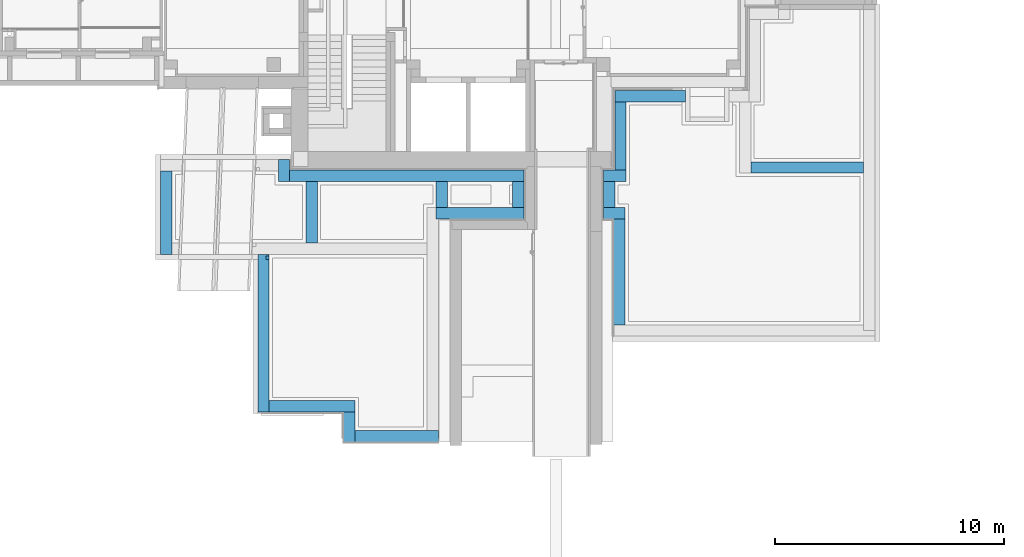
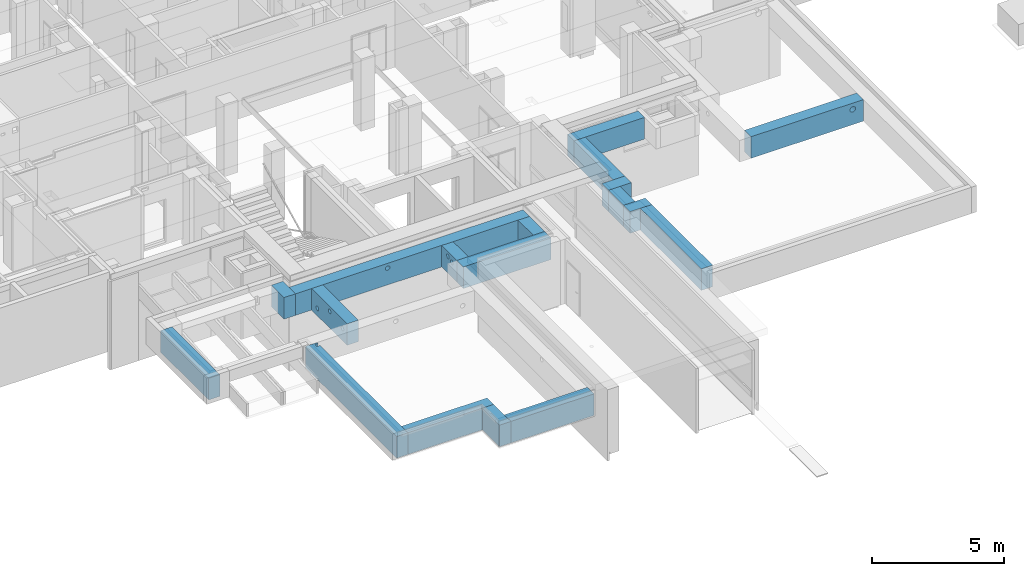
# One storey, part 1 of 84: 18 footings, 8 openings.
"""IFC4 building model written with IfcOpenShell, lengths in metres."""

from ifc_helpers import new_model, entity, si_unit, converted_unit, derived_unit, frame, frame_2d, origin, origin_with_axes, place, context, subcontext, project, spatial, polyline, rectangle, outline, extrude, material, element, save


model = new_model("IFC4")

# Units and contexts
model_context = context("Model", 3, precision=1e-05, world=origin())
body_context = subcontext(model_context, "Body", "Model", "MODEL_VIEW")
ifc_project = project(units=[si_unit("LENGTHUNIT", "METRE"), si_unit("AREAUNIT", "SQUARE_METRE"), si_unit("VOLUMEUNIT", "CUBIC_METRE"), si_unit("MASSUNIT", "GRAM", prefix="KILO"), converted_unit("PLANEANGLEUNIT", "DEGREE", entity("IfcPlaneAngleMeasure", 0.0174532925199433), si_unit("PLANEANGLEUNIT", "RADIAN"), dimensions=[0, 0, 0, 0, 0, 0, 0]), derived_unit("THERMALTRANSMITTANCEUNIT", [(si_unit("POWERUNIT", "WATT"), 1), (si_unit("THERMODYNAMICTEMPERATUREUNIT", "KELVIN"), -1), (si_unit("LENGTHUNIT", "METRE"), -2)]), derived_unit("VOLUMETRICFLOWRATEUNIT", [(si_unit("LENGTHUNIT", "METRE"), 3), (converted_unit("TIMEUNIT", "hour", entity("IfcTimeMeasure", 3600.0), si_unit("TIMEUNIT", "SECOND"), dimensions=[0, 0, 1, 0, 0, 0, 0]), -1), (si_unit("LENGTHUNIT", "METRE"), -1)])], contexts=[model_context])

# Site, building, storey
site_placement = place(None, origin())
site = spatial("IfcSite", under=ifc_project, at=site_placement, Name="3. ASŘ", CompositionType="ELEMENT")
building_placement = place(site_placement, origin())
building = spatial("IfcBuilding", under=site, at=building_placement, Name="Pavilon C", CompositionType="ELEMENT")
storey_placement = place(building_placement, frame((0.0, 0.0, -3.3)))
storey = spatial("IfcBuildingStorey", under=building, at=storey_placement, Name="Půdorys 1.PP", CompositionType="ELEMENT", Elevation=-3.3)

# Footing
ifc_material_1 = material(Name="ZELEZOBETONOVÁ KCE")
footing_1_placement = place(storey_placement, frame((24.6, -4.65, 1.8), z_axis=(0.0, 0.0, 1.0), x_axis=(0.0, -1.0, 0.0)))
element("IfcFooting", 1, at=footing_1_placement, inside=storey, material=ifc_material_1, PredefinedType="STRIP_FOOTING", context=body_context, shape_type="SweptSolid", body=[
    extrude(rectangle(XDim=0.5, YDim=1.0, at=frame_2d((0.25, 0.5), x_axis=(1.0, 0.0))), frame((0.0, 0.0, 0.0), z_axis=(1.0, 0.0, 0.0), x_axis=(0.0, 1.0, 0.0)), (0.0, 0.0, 1.0), 3.65000000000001),
])

# Footing, opening
ifc_material_2 = material(Name="ZELEZOBETONOVÁ KCE")
footing_2_placement = place(storey_placement, frame((28.85, -8.30000000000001, 1.8), z_axis=(0.0, 0.0, 1.0), x_axis=(0.0, -1.0, 0.0)))
footing_2 = element("IfcFooting", 2, at=footing_2_placement, inside=storey, material=ifc_material_2, PredefinedType="STRIP_FOOTING", context=body_context, shape_type="SweptSolid", body=[
    extrude(rectangle(XDim=0.5, YDim=1.0, at=frame_2d((0.25, 0.5), x_axis=(1.0, 0.0))), frame((0.0, 0.0, 0.0), z_axis=(1.0, 0.0, 0.0), x_axis=(0.0, 1.0, 0.0)), (0.0, 0.0, 1.0), 6.895),
])
opening_1_placement = place(footing_2_placement, frame((0.225097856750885, 0.5, 0.7), z_axis=(0.0, -1.0, 0.0), x_axis=(0.0, 0.0, 1.0)))
element("IfcOpeningElement", 3, at=opening_1_placement, cuts=footing_2, Name="ZTI", ObjectType="Opening", context=body_context, shape_type="SweptSolid", body=[
    extrude(outline(polyline([(0.0, 0.15), (0.3, 0.15), (0.3, 0.0), (0.0, 0.0), (0.0, 0.15)])), origin_with_axes(), (0.0, 0.0, 1.0), 0.15),
])

# Footings
ifc_material_3 = material(Name="ZELEZOBETONOVÁ KCE")
footing_3_placement = place(storey_placement, frame((29.35, -15.195, 1.8)))
element("IfcFooting", 4, at=footing_3_placement, inside=storey, material=ifc_material_3, PredefinedType="STRIP_FOOTING", context=body_context, shape_type="SweptSolid", body=[
    extrude(rectangle(XDim=0.5, YDim=1.0, at=frame_2d((0.25, 0.5), x_axis=(1.0, 0.0))), frame((0.0, 0.0, 0.0), z_axis=(1.0, 0.0, 0.0), x_axis=(0.0, 1.0, 0.0)), (0.0, 0.0, 1.0), 3.755),
])
ifc_material_4 = material(Name="ZELEZOBETONOVÁ KCE")
footing_4_placement = place(storey_placement, frame((32.605, -15.195, 1.8), z_axis=(0.0, 0.0, 1.0), x_axis=(0.0, -1.0, 0.0)))
element("IfcFooting", 5, at=footing_4_placement, inside=storey, material=ifc_material_4, PredefinedType="STRIP_FOOTING", context=body_context, shape_type="SweptSolid", body=[
    extrude(rectangle(XDim=0.5, YDim=1.0, at=frame_2d((0.25, 0.5), x_axis=(1.0, 0.0))), frame((0.0, 0.0, 0.0), z_axis=(1.0, 0.0, 0.0), x_axis=(0.0, 1.0, 0.0)), (0.0, 0.0, 1.0), 1.3),
])
ifc_material_5 = material(Name="ZELEZOBETONOVÁ KCE")
footing_5_placement = place(storey_placement, frame((33.105, -16.495, 1.8)))
element("IfcFooting", 6, at=footing_5_placement, inside=storey, material=ifc_material_5, PredefinedType="STRIP_FOOTING", context=body_context, shape_type="SweptSolid", body=[
    extrude(rectangle(XDim=0.5, YDim=1.0, at=frame_2d((0.25, 0.5), x_axis=(1.0, 0.0))), frame((0.0, 0.0, 0.0), z_axis=(1.0, 0.0, 0.0), x_axis=(0.0, 1.0, 0.0)), (0.0, 0.0, 1.0), 3.645),
])
ifc_material_6 = material(Name="ZELEZOBETONOVÁ KCE")
footing_6_placement = place(storey_placement, frame((36.65, -6.75, 1.8)))
element("IfcFooting", 7, at=footing_6_placement, inside=storey, material=ifc_material_6, PredefinedType="STRIP_FOOTING", context=body_context, shape_type="SweptSolid", body=[
    extrude(rectangle(XDim=0.5, YDim=1.0, at=frame_2d((0.25, 0.5), x_axis=(1.0, 0.0))), frame((0.0, 0.0, 0.0), z_axis=(1.0, 0.0, 0.0), x_axis=(0.0, 1.0, 0.0)), (0.0, 0.0, 1.0), 3.845),
])

# Footing, opening
ifc_material_7 = material(Name="ZELEZOBETONOVÁ KCE")
footing_7_placement = place(storey_placement, frame((40.495, -4.605, 1.8), z_axis=(0.0, 0.0, 1.0), x_axis=(-1.0, 1.77462380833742e-16, 0.0)))
footing_7 = element("IfcFooting", 8, at=footing_7_placement, inside=storey, material=ifc_material_7, PredefinedType="STRIP_FOOTING", context=body_context, shape_type="SweptSolid", body=[
    extrude(rectangle(XDim=0.499999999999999, YDim=1.0, at=frame_2d((0.25, 0.5), x_axis=(1.0, 0.0))), frame((0.0, 0.0, 0.0), z_axis=(1.0, 0.0, 0.0), x_axis=(0.0, 1.0, 0.0)), (0.0, 0.0, 1.0), 10.25),
])
opening_2_placement = place(footing_7_placement, frame((6.31008141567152, 0.5, 0.68), z_axis=(0.0, -1.0, 0.0), x_axis=(0.0, 0.0, 1.0)))
element("IfcOpeningElement", 9, at=opening_2_placement, cuts=footing_7, Name="RAD", ObjectType="Opening", context=body_context, shape_type="SweptSolid", body=[
    extrude(outline(polyline([(0.1, 0.0), (0.0895471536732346, 0.000547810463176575), (0.0792088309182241, 0.00218523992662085), (0.0690983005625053, 0.00489434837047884), (0.05932633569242, 0.00864545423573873), (0.05, 0.0133974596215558), (0.0412214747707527, 0.0190983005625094), (0.0330869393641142, 0.025685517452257), (0.0256855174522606, 0.0330869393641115), (0.0190983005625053, 0.0412214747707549), (0.0133974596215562, 0.05), (0.00864545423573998, 0.0593263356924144), (0.00489434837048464, 0.0690983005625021), (0.00218523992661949, 0.0792088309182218), (0.000547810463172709, 0.0895471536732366), (0.0, 0.1), (0.000547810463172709, 0.110452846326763), (0.00218523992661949, 0.120791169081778), (0.00489434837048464, 0.130901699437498), (0.00864545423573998, 0.140673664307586), (0.0133974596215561, 0.15), (0.0190983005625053, 0.158778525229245), (0.0256855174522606, 0.166913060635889), (0.0330869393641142, 0.174314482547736), (0.0412214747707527, 0.180901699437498), (0.05, 0.186602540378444), (0.05932633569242, 0.191354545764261), (0.0690983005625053, 0.195105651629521), (0.0792088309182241, 0.197814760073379), (0.0895471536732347, 0.199452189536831), (0.1, 0.2), (0.110452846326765, 0.199452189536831), (0.120791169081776, 0.197814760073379), (0.130901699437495, 0.195105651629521), (0.14067366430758, 0.191354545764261), (0.15, 0.186602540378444), (0.158778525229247, 0.180901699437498), (0.166913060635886, 0.174314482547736), (0.174314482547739, 0.166913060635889), (0.180901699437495, 0.158778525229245), (0.186602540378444, 0.15), (0.19135454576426, 0.140673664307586), (0.195105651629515, 0.130901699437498), (0.197814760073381, 0.120791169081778), (0.199452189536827, 0.110452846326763), (0.2, 0.1), (0.199452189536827, 0.0895471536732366), (0.197814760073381, 0.0792088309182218), (0.195105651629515, 0.0690983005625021), (0.19135454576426, 0.0593263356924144), (0.186602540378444, 0.05), (0.180901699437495, 0.0412214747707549), (0.174314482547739, 0.0330869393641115), (0.166913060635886, 0.025685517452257), (0.158778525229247, 0.0190983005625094), (0.15, 0.0133974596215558), (0.14067366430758, 0.00864545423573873), (0.130901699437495, 0.00489434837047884), (0.120791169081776, 0.00218523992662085), (0.110452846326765, 0.000547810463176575), (0.1, 0.0)])), origin_with_axes(), (0.0, 0.0, 1.0), 0.5),
])

# Footing, openings
ifc_material_8 = material(Name="ZELEZOBETONOVÁ KCE")
footing_8_placement = place(storey_placement, frame((30.95, -5.105, 1.8), z_axis=(0.0, 0.0, 1.0), x_axis=(0.0, -1.0, 0.0)))
footing_8 = element("IfcFooting", 10, at=footing_8_placement, inside=storey, material=ifc_material_8, PredefinedType="STRIP_FOOTING", context=body_context, shape_type="SweptSolid", body=[
    extrude(rectangle(XDim=0.5, YDim=1.0, at=frame_2d((0.25, 0.5), x_axis=(1.0, 0.0))), frame((0.0, 0.0, 0.0), z_axis=(1.0, 0.0, 0.0), x_axis=(0.0, 1.0, 0.0)), (0.0, 0.0, 1.0), 2.69500000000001),
])
opening_3_placement = place(footing_8_placement, frame((1.4725, 0.5, 0.680000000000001), z_axis=(0.0, -1.0, 0.0), x_axis=(0.0, 0.0, 1.0)))
element("IfcOpeningElement", 11, at=opening_3_placement, cuts=footing_8, Name="RAD", ObjectType="Opening", context=body_context, shape_type="SweptSolid", body=[
    extrude(outline(polyline([(0.0999999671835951, 0.0), (0.0895471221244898, 0.000547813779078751), (0.0792088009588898, 0.00218524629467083), (0.0690982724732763, 0.00489435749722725), (0.0593263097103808, 0.00864546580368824), (0.0499999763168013, 0.0133974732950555), (0.0412214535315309, 0.0190983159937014), (0.0330869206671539, 0.0256855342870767), (0.0256855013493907, 0.0330869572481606), (0.0190982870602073, 0.0412214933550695), (0.0133974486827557, 0.0500000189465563), (0.00864544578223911, 0.0593263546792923), (0.0048943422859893, 0.0690983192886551), (0.0021852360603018, 0.0792088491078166), (0.000547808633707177, 0.0895471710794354), (0.0, 0.100000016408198), (0.000547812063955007, 0.110452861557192), (0.00218524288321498, 0.120791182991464), (0.00489435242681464, 0.130901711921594), (0.0086454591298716, 0.14067367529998), (0.0133974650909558, 0.150000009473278), (0.0190983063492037, 0.158778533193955), (0.0256855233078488, 0.166913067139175), (0.0330869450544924, 0.174314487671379), (0.0412214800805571, 0.180901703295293), (0.0500000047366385, 0.186602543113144), (0.0593263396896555, 0.191354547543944), (0.0690983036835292, 0.195105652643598), (0.0792088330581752, 0.197814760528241), (0.089547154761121, 0.199452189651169), (0.0999999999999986, 0.2), (0.110452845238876, 0.199452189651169), (0.120791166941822, 0.197814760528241), (0.130901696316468, 0.195105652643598), (0.140673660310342, 0.191354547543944), (0.149999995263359, 0.186602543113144), (0.15877851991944, 0.180901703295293), (0.166913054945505, 0.174314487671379), (0.174314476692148, 0.166913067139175), (0.180901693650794, 0.158778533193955), (0.186602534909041, 0.150000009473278), (0.191354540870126, 0.14067367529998), (0.195105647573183, 0.130901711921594), (0.197814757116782, 0.120791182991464), (0.199452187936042, 0.110452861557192), (0.199999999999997, 0.100000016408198), (0.19945219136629, 0.0895471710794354), (0.197814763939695, 0.0792088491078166), (0.195105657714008, 0.0690983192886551), (0.191354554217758, 0.0593263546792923), (0.186602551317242, 0.0500000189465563), (0.18090171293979, 0.0412214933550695), (0.174314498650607, 0.0330869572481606), (0.166913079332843, 0.0256855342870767), (0.158778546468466, 0.0190983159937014), (0.150000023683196, 0.0133974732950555), (0.140673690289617, 0.00864546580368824), (0.130901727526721, 0.00489435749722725), (0.120791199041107, 0.00218524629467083), (0.110452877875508, 0.000547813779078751), (0.0999999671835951, 0.0)])), origin_with_axes(), (0.0, 0.0, 1.0), 0.5),
])
opening_4_placement = place(footing_8_placement, frame((0.537695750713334, 0.5, 0.250000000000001), z_axis=(0.0, -1.0, 0.0), x_axis=(0.0, 0.0, 1.0)))
element("IfcOpeningElement", 12, at=opening_4_placement, cuts=footing_8, Name="ZTI", ObjectType="Opening", context=body_context, shape_type="SweptSolid", body=[
    extrude(outline(polyline([(0.0999999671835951, 0.0), (0.0895471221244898, 0.000547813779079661), (0.0792088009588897, 0.00218524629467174), (0.0690982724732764, 0.00489435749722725), (0.0593263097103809, 0.00864546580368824), (0.0499999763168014, 0.0133974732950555), (0.0412214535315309, 0.0190983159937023), (0.0330869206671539, 0.0256855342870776), (0.0256855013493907, 0.0330869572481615), (0.0190982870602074, 0.0412214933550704), (0.0133974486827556, 0.0500000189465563), (0.00864544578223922, 0.0593263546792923), (0.0048943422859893, 0.0690983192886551), (0.00218523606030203, 0.0792088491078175), (0.000547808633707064, 0.0895471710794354), (0.0, 0.100000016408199), (0.000547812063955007, 0.110452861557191), (0.0021852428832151, 0.120791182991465), (0.00489435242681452, 0.130901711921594), (0.0086454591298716, 0.14067367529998), (0.0133974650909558, 0.150000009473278), (0.0190983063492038, 0.158778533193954), (0.0256855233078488, 0.166913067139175), (0.0330869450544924, 0.17431448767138), (0.0412214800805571, 0.180901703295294), (0.0500000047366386, 0.186602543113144), (0.0593263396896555, 0.191354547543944), (0.0690983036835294, 0.195105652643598), (0.0792088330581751, 0.197814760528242), (0.089547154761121, 0.199452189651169), (0.0999999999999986, 0.2), (0.110452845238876, 0.199452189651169), (0.120791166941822, 0.197814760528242), (0.130901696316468, 0.195105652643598), (0.140673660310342, 0.191354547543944), (0.149999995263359, 0.186602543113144), (0.15877851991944, 0.180901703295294), (0.166913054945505, 0.17431448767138), (0.174314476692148, 0.166913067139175), (0.180901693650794, 0.158778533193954), (0.186602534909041, 0.150000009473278), (0.191354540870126, 0.14067367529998), (0.195105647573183, 0.130901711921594), (0.197814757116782, 0.120791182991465), (0.199452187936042, 0.110452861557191), (0.199999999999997, 0.100000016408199), (0.19945219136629, 0.0895471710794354), (0.197814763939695, 0.0792088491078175), (0.195105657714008, 0.0690983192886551), (0.191354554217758, 0.0593263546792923), (0.186602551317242, 0.0500000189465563), (0.18090171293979, 0.0412214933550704), (0.174314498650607, 0.0330869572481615), (0.166913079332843, 0.0256855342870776), (0.158778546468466, 0.0190983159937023), (0.150000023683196, 0.0133974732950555), (0.140673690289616, 0.00864546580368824), (0.130901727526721, 0.00489435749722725), (0.120791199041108, 0.00218524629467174), (0.110452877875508, 0.000547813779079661), (0.0999999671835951, 0.0)])), origin_with_axes(), (0.0, 0.0, 1.0), 0.5),
])
opening_5_placement = place(footing_8_placement, frame((2.44573593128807, 0.5, 0.470000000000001), z_axis=(0.0, -1.0, 0.0), x_axis=(0.0, 0.0, 1.0)))
element("IfcOpeningElement", 13, at=opening_5_placement, cuts=footing_8, Name="ZTI", ObjectType="Opening", context=body_context, shape_type="SweptSolid", body=[
    extrude(outline(polyline([(0.0999999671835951, 0.0), (0.0895471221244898, 0.000547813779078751), (0.0792088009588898, 0.00218524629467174), (0.0690982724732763, 0.00489435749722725), (0.0593263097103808, 0.00864546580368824), (0.0499999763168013, 0.0133974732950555), (0.0412214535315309, 0.0190983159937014), (0.0330869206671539, 0.0256855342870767), (0.0256855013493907, 0.0330869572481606), (0.0190982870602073, 0.0412214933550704), (0.0133974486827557, 0.0500000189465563), (0.00864544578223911, 0.0593263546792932), (0.0048943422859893, 0.0690983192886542), (0.00218523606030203, 0.0792088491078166), (0.000547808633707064, 0.0895471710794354), (0.0, 0.100000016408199), (0.000547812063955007, 0.110452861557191), (0.0021852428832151, 0.120791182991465), (0.00489435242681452, 0.130901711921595), (0.0086454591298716, 0.140673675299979), (0.0133974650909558, 0.150000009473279), (0.0190983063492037, 0.158778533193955), (0.0256855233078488, 0.166913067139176), (0.0330869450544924, 0.174314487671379), (0.0412214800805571, 0.180901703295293), (0.0500000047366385, 0.186602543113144), (0.0593263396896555, 0.191354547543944), (0.0690983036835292, 0.195105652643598), (0.0792088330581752, 0.197814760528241), (0.089547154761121, 0.199452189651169), (0.0999999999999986, 0.2), (0.110452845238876, 0.199452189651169), (0.120791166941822, 0.197814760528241), (0.130901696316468, 0.195105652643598), (0.140673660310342, 0.191354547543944), (0.149999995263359, 0.186602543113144), (0.15877851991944, 0.180901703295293), (0.166913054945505, 0.174314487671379), (0.174314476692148, 0.166913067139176), (0.180901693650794, 0.158778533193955), (0.186602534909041, 0.150000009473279), (0.191354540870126, 0.140673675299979), (0.195105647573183, 0.130901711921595), (0.197814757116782, 0.120791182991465), (0.199452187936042, 0.110452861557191), (0.199999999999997, 0.100000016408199), (0.19945219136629, 0.0895471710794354), (0.197814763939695, 0.0792088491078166), (0.195105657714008, 0.0690983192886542), (0.191354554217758, 0.0593263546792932), (0.186602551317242, 0.0500000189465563), (0.18090171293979, 0.0412214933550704), (0.174314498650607, 0.0330869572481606), (0.166913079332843, 0.0256855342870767), (0.158778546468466, 0.0190983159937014), (0.150000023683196, 0.0133974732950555), (0.140673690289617, 0.00864546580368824), (0.130901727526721, 0.00489435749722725), (0.120791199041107, 0.00218524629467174), (0.110452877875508, 0.000547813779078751), (0.0999999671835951, 0.0)])), origin_with_axes(), (0.0, 0.0, 1.0), 0.5),
])

# Footings
ifc_material_9 = material(Name="ZELEZOBETONOVÁ KCE")
footing_9_placement = place(storey_placement, frame((30.245, -5.105, 1.8), z_axis=(0.0, 0.0, 1.0), x_axis=(-3.80940189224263e-15, 1.0, 0.0)))
element("IfcFooting", 14, at=footing_9_placement, inside=storey, material=ifc_material_9, PredefinedType="STRIP_FOOTING", context=body_context, shape_type="SweptSolid", body=[
    extrude(rectangle(XDim=0.499999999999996, YDim=1.0, at=frame_2d((0.249999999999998, 0.5), x_axis=(1.0, 0.0))), frame((0.0, 0.0, 0.0), z_axis=(1.0, 0.0, 0.0), x_axis=(0.0, 1.0, 0.0)), (0.0, 0.0, 1.0), 0.954999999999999),
])
ifc_material_10 = material(Name="ZELEZOBETONOVÁ KCE")
footing_10_placement = place(storey_placement, frame((44.455, -6.25, 1.8), z_axis=(0.0, 0.0, 1.0), x_axis=(0.0, 1.0, 0.0)))
element("IfcFooting", 15, at=footing_10_placement, inside=storey, material=ifc_material_10, PredefinedType="STRIP_FOOTING", context=body_context, shape_type="SweptSolid", body=[
    extrude(rectangle(XDim=0.5, YDim=1.0, at=frame_2d((0.25, 0.5), x_axis=(1.0, 0.0))), frame((0.0, 0.0, 0.0), z_axis=(1.0, 0.0, 0.0), x_axis=(0.0, 1.0, 0.0)), (0.0, 0.0, 1.0), 1.14499999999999),
])
ifc_material_11 = material(Name="ZELEZOBETONOVÁ KCE")
footing_11_placement = place(storey_placement, frame((44.9, -6.24999999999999, 1.8), z_axis=(0.0, 0.0, 1.0), x_axis=(-1.0, -2.21358498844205e-14, 0.0)))
element("IfcFooting", 16, at=footing_11_placement, inside=storey, material=ifc_material_11, PredefinedType="STRIP_FOOTING", context=body_context, shape_type="SweptSolid", body=[
    extrude(rectangle(XDim=0.500000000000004, YDim=1.0, at=frame_2d((0.250000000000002, 0.5), x_axis=(1.0, 0.0))), frame((0.0, 0.0, 0.0), z_axis=(1.0, 0.0, 0.0), x_axis=(0.0, 1.0, 0.0)), (0.0, 0.0, 1.0), 0.945),
])
ifc_material_12 = material(Name="ZELEZOBETONOVÁ KCE")
footing_12_placement = place(storey_placement, frame((43.955, -5.10500000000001, 1.8)))
element("IfcFooting", 17, at=footing_12_placement, inside=storey, material=ifc_material_12, PredefinedType="STRIP_FOOTING", context=body_context, shape_type="SweptSolid", body=[
    extrude(rectangle(XDim=0.5, YDim=1.0, at=frame_2d((0.25, 0.5), x_axis=(1.0, 0.0))), frame((0.0, 0.0, 0.0), z_axis=(1.0, 0.0, 0.0), x_axis=(0.0, 1.0, 0.0)), (0.0, 0.0, 1.0), 1.0),
])
ifc_material_13 = material(Name="ZELEZOBETONOVÁ KCE")
footing_13_placement = place(storey_placement, frame((44.455, -1.625, 1.8), z_axis=(0.0, 0.0, 1.0), x_axis=(0.0, -1.0, 0.0)))
element("IfcFooting", 18, at=footing_13_placement, inside=storey, material=ifc_material_13, PredefinedType="STRIP_FOOTING", context=body_context, shape_type="SweptSolid", body=[
    extrude(rectangle(XDim=0.5, YDim=1.0, at=frame_2d((0.25, 0.5), x_axis=(1.0, 0.0))), frame((0.0, 0.0, 0.0), z_axis=(1.0, 0.0, 0.0), x_axis=(0.0, 1.0, 0.0)), (0.0, 0.0, 1.0), 2.98000000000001),
])
ifc_material_14 = material(Name="ZELEZOBETONOVÁ KCE")
footing_14_placement = place(storey_placement, frame((47.55, -1.12499999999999, 1.8), z_axis=(0.0, 0.0, 1.0), x_axis=(-1.0, -3.96710128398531e-15, 0.0)))
element("IfcFooting", 19, at=footing_14_placement, inside=storey, material=ifc_material_14, PredefinedType="STRIP_FOOTING", context=body_context, shape_type="SweptSolid", body=[
    extrude(rectangle(XDim=0.5, YDim=1.0, at=frame_2d((0.25, 0.5), x_axis=(1.0, 0.0))), frame((0.0, 0.0, 0.0), z_axis=(1.0, 0.0, 0.0), x_axis=(0.0, 1.0, 0.0)), (0.0, 0.0, 1.0), 3.095),
])
ifc_material_15 = material(Name="ZELEZOBETONOVÁ KCE")
footing_15_placement = place(storey_placement, frame((44.9, -11.375, 1.8), z_axis=(0.0, 0.0, 1.0), x_axis=(0.0, 1.0, 0.0)))
element("IfcFooting", 20, at=footing_15_placement, inside=storey, material=ifc_material_15, PredefinedType="STRIP_FOOTING", context=body_context, shape_type="SweptSolid", body=[
    extrude(rectangle(XDim=0.5, YDim=1.0, at=frame_2d((0.25, 0.5), x_axis=(1.0, 0.0))), frame((0.0, 0.0, 0.0), z_axis=(1.0, 0.0, 0.0), x_axis=(0.0, 1.0, 0.0)), (0.0, 0.0, 1.0), 4.62500000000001),
])

# Footing, opening
ifc_material_16 = material(Name="ZELEZOBETONOVÁ KCE")
footing_16_placement = place(storey_placement, frame((55.3250000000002, -4.25, 1.8), z_axis=(0.0, 0.0, 1.0), x_axis=(-1.0, 0.0, 0.0)))
footing_16 = element("IfcFooting", 21, at=footing_16_placement, inside=storey, material=ifc_material_16, PredefinedType="STRIP_FOOTING", context=body_context, shape_type="SweptSolid", body=[
    extrude(rectangle(XDim=0.5, YDim=1.0, at=frame_2d((0.25, 0.5), x_axis=(1.0, 0.0))), frame((0.0, 0.0, 0.0), z_axis=(1.0, 0.0, 0.0), x_axis=(0.0, 1.0, 0.0)), (0.0, 0.0, 1.0), 4.92500000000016),
])
opening_6_placement = place(footing_16_placement, frame((0.591687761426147, 0.5, 0.585), z_axis=(0.0, -1.0, 0.0), x_axis=(0.0, 0.0, 1.0)))
element("IfcOpeningElement", 22, at=opening_6_placement, cuts=footing_16, Name="ZTI", ObjectType="Opening", context=body_context, shape_type="SweptSolid", body=[
    extrude(outline(polyline([(0.12499999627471, 0.0), (0.111933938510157, 0.000684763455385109), (0.099011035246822, 0.00273155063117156), (0.0863728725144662, 0.00611793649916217), (0.0741579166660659, 0.0108068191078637), (0.0624999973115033, 0.0167468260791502), (0.0515268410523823, 0.0238728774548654), (0.0413586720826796, 0.0321068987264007), (0.0321068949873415, 0.0413586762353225), (0.0238728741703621, 0.051526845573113), (0.0167468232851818, 0.0625000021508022), (0.0108068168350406, 0.0741579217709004), (0.00611793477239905, 0.0863728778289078), (0.00273154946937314, 0.0990110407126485), (0.000684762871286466, 0.111933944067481), (0.0, 0.125000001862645), (0.000684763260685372, 0.138066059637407), (0.00273155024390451, 0.150988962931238), (0.00611793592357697, 0.163627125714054), (0.0108068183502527, 0.175842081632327), (0.0167468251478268, 0.187500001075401), (0.0238728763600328, 0.198473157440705), (0.0321068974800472, 0.208641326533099), (0.0413586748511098, 0.217893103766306), (0.0515268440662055, 0.226127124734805), (0.0625000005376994, 0.233253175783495), (0.0741579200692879, 0.239193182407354), (0.0863728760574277, 0.243882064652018), (0.0990110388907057, 0.247268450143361), (0.111933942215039, 0.249315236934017), (0.125, 0.25), (0.138066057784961, 0.249315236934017), (0.150988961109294, 0.247268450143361), (0.163627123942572, 0.243882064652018), (0.175842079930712, 0.239193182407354), (0.187499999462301, 0.233253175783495), (0.198473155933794, 0.226127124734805), (0.20864132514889, 0.217893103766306), (0.217893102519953, 0.208641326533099), (0.226127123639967, 0.198473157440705), (0.233253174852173, 0.187500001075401), (0.239193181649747, 0.175842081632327), (0.243882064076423, 0.163627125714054), (0.247268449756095, 0.150988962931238), (0.249315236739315, 0.138066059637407), (0.25, 0.125000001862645), (0.249315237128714, 0.111933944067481), (0.247268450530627, 0.0990110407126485), (0.243882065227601, 0.0863728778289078), (0.239193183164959, 0.0741579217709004), (0.233253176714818, 0.0625000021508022), (0.226127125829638, 0.051526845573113), (0.217893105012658, 0.0413586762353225), (0.20864132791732, 0.0321068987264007), (0.198473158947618, 0.0238728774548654), (0.187500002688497, 0.0167468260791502), (0.175842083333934, 0.0108068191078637), (0.163627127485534, 0.00611793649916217), (0.150988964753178, 0.00273155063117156), (0.138066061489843, 0.000684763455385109), (0.12499999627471, 0.0)])), origin_with_axes(), (0.0, 0.0, 1.0), 0.5),
])

# Footing, openings
ifc_material_17 = material(Name="ZELEZOBETONOVÁ KCE")
footing_17_placement = place(storey_placement, frame((37.15, -6.25, 1.8), z_axis=(0.0, 0.0, 1.0), x_axis=(0.0, 1.0, 0.0)))
footing_17 = element("IfcFooting", 23, at=footing_17_placement, inside=storey, material=ifc_material_17, PredefinedType="STRIP_FOOTING", context=body_context, shape_type="SweptSolid", body=[
    extrude(rectangle(XDim=0.5, YDim=1.0, at=frame_2d((0.25, 0.5), x_axis=(1.0, 0.0))), frame((0.0, 0.0, 0.0), z_axis=(1.0, 0.0, 0.0), x_axis=(0.0, 1.0, 0.0)), (0.0, 0.0, 1.0), 1.145),
])
opening_7_placement = place(footing_17_placement, frame((0.4742664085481, 0.5, 0.580000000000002), z_axis=(0.0, -1.0, 0.0), x_axis=(0.0, 0.0, 1.0)))
element("IfcOpeningElement", 24, at=opening_7_placement, cuts=footing_17, Name="ZTI", ObjectType="Opening", context=body_context, shape_type="SweptSolid", body=[
    extrude(outline(polyline([(0.0999999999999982, 0.0), (0.0895471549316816, 0.000547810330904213), (0.0792088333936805, 0.00218523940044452), (0.0690983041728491, 0.00489434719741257), (0.0593263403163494, 0.0086454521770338), (0.0500000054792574, 0.0133974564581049), (0.041221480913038, 0.0190982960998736), (0.0330869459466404, 0.0256855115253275), (0.0256855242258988, 0.0330869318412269), (0.019098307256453, 0.0412214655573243), (0.0133974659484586, 0.0499999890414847), (0.00864545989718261, 0.0593263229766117), (0.00489435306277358, 0.069098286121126), (0.00218524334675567, 0.079208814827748), (0.000547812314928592, 0.0895471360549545), (0.0, 0.099999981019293), (0.000547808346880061, 0.110452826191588), (0.00218523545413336, 0.120791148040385), (0.00489434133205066, 0.130901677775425), (0.00864544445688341, 0.140673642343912), (0.0133974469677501, 0.149999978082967), (0.0190982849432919, 0.158778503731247), (0.0256854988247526, 0.166913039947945), (0.0330869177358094, 0.174314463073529), (0.0412214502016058, 0.180901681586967), (0.0499999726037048, 0.186602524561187), (0.0593263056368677, 0.191354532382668), (0.0690982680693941, 0.195105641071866), (0.0792087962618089, 0.197814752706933), (0.0895471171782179, 0.199452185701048), (0.0999999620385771, 0.2), (0.110452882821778, 0.199452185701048), (0.120791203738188, 0.197814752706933), (0.130901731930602, 0.195105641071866), (0.140673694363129, 0.191354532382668), (0.150000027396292, 0.186602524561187), (0.158778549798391, 0.180901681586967), (0.166913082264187, 0.174314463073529), (0.174314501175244, 0.166913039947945), (0.180901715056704, 0.158778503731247), (0.186602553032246, 0.149999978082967), (0.191354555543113, 0.140673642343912), (0.195105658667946, 0.130901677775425), (0.197814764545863, 0.120791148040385), (0.199452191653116, 0.110452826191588), (0.199999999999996, 0.099999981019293), (0.199452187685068, 0.0895471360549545), (0.197814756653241, 0.079208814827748), (0.195105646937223, 0.069098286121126), (0.191354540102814, 0.0593263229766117), (0.186602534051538, 0.0499999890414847), (0.180901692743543, 0.0412214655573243), (0.174314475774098, 0.0330869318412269), (0.166913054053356, 0.0256855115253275), (0.158778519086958, 0.0190982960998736), (0.149999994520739, 0.0133974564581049), (0.140673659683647, 0.0086454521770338), (0.130901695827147, 0.00489434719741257), (0.120791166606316, 0.00218523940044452), (0.110452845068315, 0.000547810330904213), (0.0999999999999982, 0.0)])), origin_with_axes(), (0.0, 0.0, 1.0), 0.5),
])
opening_8_placement = place(footing_17_placement, frame((0.575000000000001, 0.0, 0.680000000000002), z_axis=(0.0, 1.0, 0.0), x_axis=(0.0, 0.0, 1.0)))
element("IfcOpeningElement", 25, at=opening_8_placement, cuts=footing_17, Name="RAD", ObjectType="Opening", context=body_context, shape_type="SweptSolid", body=[
    extrude(outline(polyline([(0.0999999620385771, 0.0), (0.0895471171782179, 0.000547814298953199), (0.0792087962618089, 0.00218524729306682), (0.0690982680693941, 0.00489435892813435), (0.0593263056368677, 0.00864546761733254), (0.0499999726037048, 0.0133974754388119), (0.0412214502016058, 0.0190983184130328), (0.0330869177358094, 0.0256855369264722), (0.0256854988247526, 0.0330869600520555), (0.0190982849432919, 0.041221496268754), (0.0133974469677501, 0.0500000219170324), (0.00864544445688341, 0.0593263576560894), (0.00489434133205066, 0.0690983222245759), (0.00218523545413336, 0.0792088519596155), (0.000547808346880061, 0.0895471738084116), (0.0, 0.100000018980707), (0.000547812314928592, 0.110452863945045), (0.00218524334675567, 0.120791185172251), (0.00489435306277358, 0.130901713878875), (0.00864545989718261, 0.140673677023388), (0.0133974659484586, 0.150000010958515), (0.019098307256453, 0.158778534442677), (0.0256855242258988, 0.166913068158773), (0.0330869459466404, 0.174314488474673), (0.041221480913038, 0.180901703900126), (0.0500000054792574, 0.186602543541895), (0.0593263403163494, 0.191354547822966), (0.0690983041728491, 0.195105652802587), (0.0792088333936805, 0.197814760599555), (0.0895471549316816, 0.199452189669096), (0.0999999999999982, 0.2), (0.110452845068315, 0.199452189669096), (0.120791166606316, 0.197814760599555), (0.130901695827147, 0.195105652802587), (0.140673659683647, 0.191354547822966), (0.149999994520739, 0.186602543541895), (0.158778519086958, 0.180901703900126), (0.166913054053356, 0.174314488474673), (0.174314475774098, 0.166913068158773), (0.180901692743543, 0.158778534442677), (0.186602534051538, 0.150000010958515), (0.191354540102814, 0.140673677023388), (0.195105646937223, 0.130901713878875), (0.197814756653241, 0.120791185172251), (0.199452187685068, 0.110452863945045), (0.199999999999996, 0.100000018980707), (0.199452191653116, 0.0895471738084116), (0.197814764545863, 0.0792088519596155), (0.195105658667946, 0.0690983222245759), (0.191354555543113, 0.0593263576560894), (0.186602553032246, 0.0500000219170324), (0.180901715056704, 0.041221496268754), (0.174314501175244, 0.0330869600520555), (0.166913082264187, 0.0256855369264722), (0.158778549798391, 0.0190983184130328), (0.150000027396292, 0.0133974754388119), (0.140673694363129, 0.00864546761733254), (0.130901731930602, 0.00489435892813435), (0.120791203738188, 0.00218524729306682), (0.110452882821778, 0.000547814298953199), (0.0999999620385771, 0.0)])), origin_with_axes(), (0.0, 0.0, 1.0), 0.5),
])

# Footing
ifc_material_18 = material(Name="ZELEZOBETONOVÁ KCE")
footing_18_placement = place(storey_placement, frame((40.495, -6.25, 1.8), z_axis=(0.0, 0.0, 1.0), x_axis=(0.0, 1.0, 0.0)))
element("IfcFooting", 26, at=footing_18_placement, inside=storey, material=ifc_material_18, PredefinedType="STRIP_FOOTING", context=body_context, shape_type="SweptSolid", body=[
    extrude(rectangle(XDim=0.5, YDim=1.0, at=frame_2d((0.25, 0.5), x_axis=(1.0, 0.0))), frame((0.0, 0.0, 0.0), z_axis=(1.0, 0.0, 0.0), x_axis=(0.0, 1.0, 0.0)), (0.0, 0.0, 1.0), 1.145),
])

save(model, "model.ifc")
